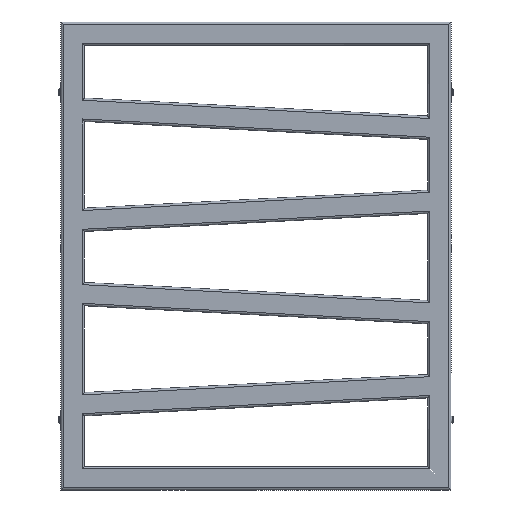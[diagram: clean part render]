
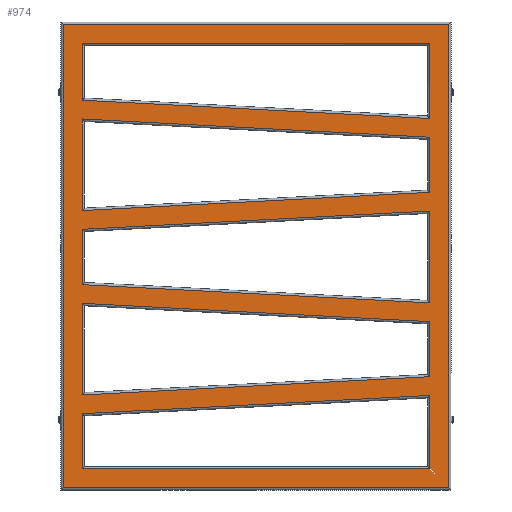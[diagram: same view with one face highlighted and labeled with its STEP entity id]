
A CAD part, front view. The second image highlights one B-rep face of the part: STEP entity #974.
In plain terms, the highlighted planar face has unit normal (0, -1, 0).
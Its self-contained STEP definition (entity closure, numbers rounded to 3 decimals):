
#665=CARTESIAN_POINT('',(-247.,0.0,597.0));
#666=VERTEX_POINT('',#665);
#674=CARTESIAN_POINT('',(247.,0.0,597.0));
#675=VERTEX_POINT('',#674);
#676=CARTESIAN_POINT('',(-247.,0.0,597.0));
#677=DIRECTION('',(1.0,0.0,0.0));
#678=VECTOR('',#677,494.);
#679=LINE('',#676,#678);
#680=EDGE_CURVE('',#666,#675,#679,.T.);
#699=CARTESIAN_POINT('',(247.0,0.0,3.));
#700=VERTEX_POINT('',#699);
#701=CARTESIAN_POINT('',(247.,0.0,597.0));
#702=DIRECTION('',(0.0,0.0,-1.0));
#703=VECTOR('',#702,594.0);
#704=LINE('',#701,#703);
#705=EDGE_CURVE('',#675,#700,#704,.T.);
#728=CARTESIAN_POINT('',(-247.,0.0,3.));
#729=VERTEX_POINT('',#728);
#737=CARTESIAN_POINT('',(-247.,0.0,3.0));
#738=DIRECTION('',(0.0,0.0,1.0));
#739=VECTOR('',#738,594.0);
#740=LINE('',#737,#739);
#741=EDGE_CURVE('',#729,#666,#740,.T.);
#754=CARTESIAN_POINT('',(247.0,0.0,3.));
#755=DIRECTION('',(-1.0,0.0,0.0));
#756=VECTOR('',#755,494.0);
#757=LINE('',#754,#756);
#758=EDGE_CURVE('',#700,#729,#757,.T.);
#793=CARTESIAN_POINT('',(0.0,0.0,300.0));
#794=DIRECTION('',(0.0,1.0,0.0));
#795=DIRECTION('',(0.0,0.0,1.0));
#796=AXIS2_PLACEMENT_3D('',#793,#794,#795);
#797=PLANE('',#796);
#798=ORIENTED_EDGE('',*,*,#680,.F.);
#799=ORIENTED_EDGE('',*,*,#741,.F.);
#800=ORIENTED_EDGE('',*,*,#758,.F.);
#801=ORIENTED_EDGE('',*,*,#705,.F.);
#802=EDGE_LOOP('',(#798,#799,#800,#801));
#803=FACE_OUTER_BOUND('',#802,.T.);
#804=CARTESIAN_POINT('',(223.0,0.0,27.));
#805=VERTEX_POINT('',#804);
#806=CARTESIAN_POINT('',(223.,0.0,121.221));
#807=VERTEX_POINT('',#806);
#808=CARTESIAN_POINT('',(223.,0.0,27.));
#809=DIRECTION('',(0.0,0.0,1.0));
#810=VECTOR('',#809,94.221);
#811=LINE('',#808,#810);
#812=EDGE_CURVE('',#805,#807,#811,.T.);
#813=ORIENTED_EDGE('',*,*,#812,.F.);
#814=CARTESIAN_POINT('',(-223.,0.0,27.));
#815=VERTEX_POINT('',#814);
#816=CARTESIAN_POINT('',(-223.,0.0,27.));
#817=DIRECTION('',(1.0,0.0,0.0));
#818=VECTOR('',#817,446.);
#819=LINE('',#816,#818);
#820=EDGE_CURVE('',#815,#805,#819,.T.);
#821=ORIENTED_EDGE('',*,*,#820,.F.);
#822=CARTESIAN_POINT('',(-223.,0.0,97.847));
#823=VERTEX_POINT('',#822);
#824=CARTESIAN_POINT('',(-223.,0.0,97.847));
#825=DIRECTION('',(0.0,0.0,-1.0));
#826=VECTOR('',#825,70.847);
#827=LINE('',#824,#826);
#828=EDGE_CURVE('',#823,#815,#827,.T.);
#829=ORIENTED_EDGE('',*,*,#828,.F.);
#830=CARTESIAN_POINT('',(223.,0.0,121.221));
#831=DIRECTION('',(-0.999,0.0,-0.052));
#832=VECTOR('',#831,446.612);
#833=LINE('',#830,#832);
#834=EDGE_CURVE('',#807,#823,#833,.T.);
#835=ORIENTED_EDGE('',*,*,#834,.F.);
#836=EDGE_LOOP('',(#813,#821,#829,#835));
#837=FACE_BOUND('',#836,.T.);
#838=CARTESIAN_POINT('',(223.,0.0,381.613));
#839=VERTEX_POINT('',#838);
#840=CARTESIAN_POINT('',(223.,0.0,452.306));
#841=VERTEX_POINT('',#840);
#842=CARTESIAN_POINT('',(223.,0.0,381.613));
#843=DIRECTION('',(0.0,0.0,1.0));
#844=VECTOR('',#843,70.694);
#845=LINE('',#842,#844);
#846=EDGE_CURVE('',#839,#841,#845,.T.);
#847=ORIENTED_EDGE('',*,*,#846,.F.);
#848=CARTESIAN_POINT('',(-223.,0.0,358.239));
#849=VERTEX_POINT('',#848);
#850=CARTESIAN_POINT('',(-223.,0.0,358.239));
#851=DIRECTION('',(0.999,0.0,0.052));
#852=VECTOR('',#851,446.612);
#853=LINE('',#850,#852);
#854=EDGE_CURVE('',#849,#839,#853,.T.);
#855=ORIENTED_EDGE('',*,*,#854,.F.);
#856=CARTESIAN_POINT('',(-223.,0.0,475.68));
#857=VERTEX_POINT('',#856);
#858=CARTESIAN_POINT('',(-223.,0.0,475.68));
#859=DIRECTION('',(0.0,0.0,-1.0));
#860=VECTOR('',#859,117.442);
#861=LINE('',#858,#860);
#862=EDGE_CURVE('',#857,#849,#861,.T.);
#863=ORIENTED_EDGE('',*,*,#862,.F.);
#864=CARTESIAN_POINT('',(223.,0.0,452.306));
#865=DIRECTION('',(-0.999,0.0,0.052));
#866=VECTOR('',#865,446.612);
#867=LINE('',#864,#866);
#868=EDGE_CURVE('',#841,#857,#867,.T.);
#869=ORIENTED_EDGE('',*,*,#868,.F.);
#870=EDGE_LOOP('',(#847,#855,#863,#869));
#871=FACE_BOUND('',#870,.T.);
#872=CARTESIAN_POINT('',(-223.,0.0,499.672));
#873=VERTEX_POINT('',#872);
#874=CARTESIAN_POINT('',(223.,0.0,476.298));
#875=VERTEX_POINT('',#874);
#876=CARTESIAN_POINT('',(-223.,0.0,499.672));
#877=DIRECTION('',(0.999,0.0,-0.052));
#878=VECTOR('',#877,446.612);
#879=LINE('',#876,#878);
#880=EDGE_CURVE('',#873,#875,#879,.T.);
#881=ORIENTED_EDGE('',*,*,#880,.F.);
#882=CARTESIAN_POINT('',(-223.,0.0,573.));
#883=VERTEX_POINT('',#882);
#884=CARTESIAN_POINT('',(-223.,0.0,573.));
#885=DIRECTION('',(0.0,0.0,-1.0));
#886=VECTOR('',#885,73.328);
#887=LINE('',#884,#886);
#888=EDGE_CURVE('',#883,#873,#887,.T.);
#889=ORIENTED_EDGE('',*,*,#888,.F.);
#890=CARTESIAN_POINT('',(223.,0.0,573.));
#891=VERTEX_POINT('',#890);
#892=CARTESIAN_POINT('',(223.,0.0,573.));
#893=DIRECTION('',(-1.0,0.0,0.0));
#894=VECTOR('',#893,446.);
#895=LINE('',#892,#894);
#896=EDGE_CURVE('',#891,#883,#895,.T.);
#897=ORIENTED_EDGE('',*,*,#896,.F.);
#898=CARTESIAN_POINT('',(223.,0.0,476.298));
#899=DIRECTION('',(0.0,0.0,1.0));
#900=VECTOR('',#899,96.702);
#901=LINE('',#898,#900);
#902=EDGE_CURVE('',#875,#891,#901,.T.);
#903=ORIENTED_EDGE('',*,*,#902,.F.);
#904=EDGE_LOOP('',(#881,#889,#897,#903));
#905=FACE_BOUND('',#904,.T.);
#906=CARTESIAN_POINT('',(223.,0.0,239.898));
#907=VERTEX_POINT('',#906);
#908=CARTESIAN_POINT('',(223.,0.0,357.621));
#909=VERTEX_POINT('',#908);
#910=CARTESIAN_POINT('',(223.,0.0,239.898));
#911=DIRECTION('',(0.0,0.0,1.0));
#912=VECTOR('',#911,117.723);
#913=LINE('',#910,#912);
#914=EDGE_CURVE('',#907,#909,#913,.T.);
#915=ORIENTED_EDGE('',*,*,#914,.F.);
#916=CARTESIAN_POINT('',(-223.,0.0,263.272));
#917=VERTEX_POINT('',#916);
#918=CARTESIAN_POINT('',(-223.,0.0,263.272));
#919=DIRECTION('',(0.999,0.0,-0.052));
#920=VECTOR('',#919,446.612);
#921=LINE('',#918,#920);
#922=EDGE_CURVE('',#917,#907,#921,.T.);
#923=ORIENTED_EDGE('',*,*,#922,.F.);
#924=CARTESIAN_POINT('',(-223.,0.0,334.247));
#925=VERTEX_POINT('',#924);
#926=CARTESIAN_POINT('',(-223.,0.0,334.247));
#927=DIRECTION('',(0.0,0.0,-1.0));
#928=VECTOR('',#927,70.975);
#929=LINE('',#926,#928);
#930=EDGE_CURVE('',#925,#917,#929,.T.);
#931=ORIENTED_EDGE('',*,*,#930,.F.);
#932=CARTESIAN_POINT('',(223.,0.0,357.621));
#933=DIRECTION('',(-0.999,0.0,-0.052));
#934=VECTOR('',#933,446.612);
#935=LINE('',#932,#934);
#936=EDGE_CURVE('',#909,#925,#935,.T.);
#937=ORIENTED_EDGE('',*,*,#936,.F.);
#938=EDGE_LOOP('',(#915,#923,#931,#937));
#939=FACE_BOUND('',#938,.T.);
#940=CARTESIAN_POINT('',(223.,0.0,145.213));
#941=VERTEX_POINT('',#940);
#942=CARTESIAN_POINT('',(223.,0.0,215.906));
#943=VERTEX_POINT('',#942);
#944=CARTESIAN_POINT('',(223.,0.0,145.213));
#945=DIRECTION('',(0.0,0.0,1.0));
#946=VECTOR('',#945,70.694);
#947=LINE('',#944,#946);
#948=EDGE_CURVE('',#941,#943,#947,.T.);
#949=ORIENTED_EDGE('',*,*,#948,.F.);
#950=CARTESIAN_POINT('',(-223.,0.0,121.839));
#951=VERTEX_POINT('',#950);
#952=CARTESIAN_POINT('',(-223.,0.0,121.839));
#953=DIRECTION('',(0.999,0.0,0.052));
#954=VECTOR('',#953,446.612);
#955=LINE('',#952,#954);
#956=EDGE_CURVE('',#951,#941,#955,.T.);
#957=ORIENTED_EDGE('',*,*,#956,.F.);
#958=CARTESIAN_POINT('',(-223.,0.0,239.28));
#959=VERTEX_POINT('',#958);
#960=CARTESIAN_POINT('',(-223.,0.0,239.28));
#961=DIRECTION('',(0.0,0.0,-1.0));
#962=VECTOR('',#961,117.442);
#963=LINE('',#960,#962);
#964=EDGE_CURVE('',#959,#951,#963,.T.);
#965=ORIENTED_EDGE('',*,*,#964,.F.);
#966=CARTESIAN_POINT('',(223.,0.0,215.906));
#967=DIRECTION('',(-0.999,0.0,0.052));
#968=VECTOR('',#967,446.612);
#969=LINE('',#966,#968);
#970=EDGE_CURVE('',#943,#959,#969,.T.);
#971=ORIENTED_EDGE('',*,*,#970,.F.);
#972=EDGE_LOOP('',(#949,#957,#965,#971));
#973=FACE_BOUND('',#972,.T.);
#974=ADVANCED_FACE('',(#803,#837,#871,#905,#939,#973),#797,.F.);
